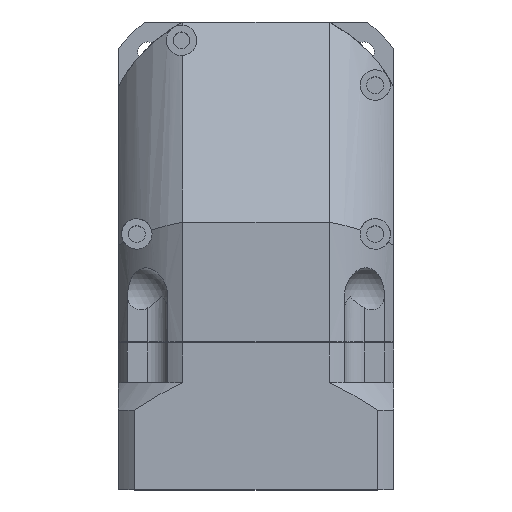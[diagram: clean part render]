
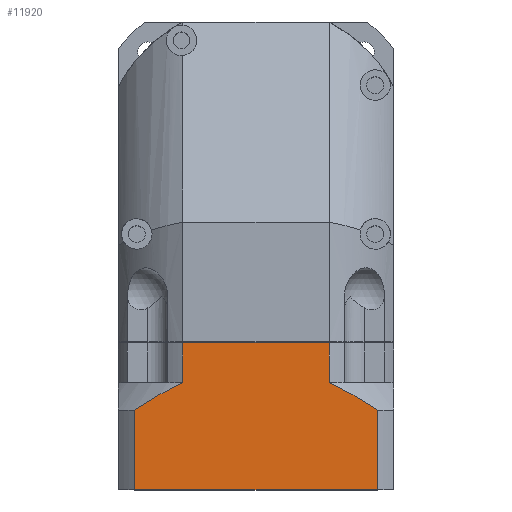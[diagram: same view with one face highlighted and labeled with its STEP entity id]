
A CAD part, top view. The second image highlights one B-rep face of the part: STEP entity #11920.
In plain terms, the highlighted planar face has unit normal (0, 0, 1) as drawn and (0, 0, -1) by its records, which use the part's own axes.
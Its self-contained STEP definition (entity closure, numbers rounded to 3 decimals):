
#10580=DIRECTION('',(-1.,0.,0.));
#10581=VECTOR('',#10580,79.373);
#10582=CARTESIAN_POINT('',(39.686,48.,-45.));
#10583=LINE('',#10582,#10581);
#10712=DIRECTION('',(0.,1.,0.));
#10713=VECTOR('',#10712,26.);
#10714=CARTESIAN_POINT('',(-39.686,22.,-45.));
#10715=LINE('',#10714,#10713);
#10716=CARTESIAN_POINT('',(-24.,13.,-45.));
#10717=CARTESIAN_POINT('',(-25.183,13.557,-45.));
#10718=CARTESIAN_POINT('',(-27.606,14.761,-45.));
#10719=CARTESIAN_POINT('',(-31.377,16.828,-45.));
#10720=CARTESIAN_POINT('',(-35.365,19.203,-45.));
#10721=CARTESIAN_POINT('',(-38.217,21.028,-45.));
#10722=CARTESIAN_POINT('',(-39.686,22.,-45.));
#10724=DIRECTION('',(0.,1.,0.));
#10725=VECTOR('',#10724,13.);
#10726=CARTESIAN_POINT('',(24.,0.,-45.));
#10727=LINE('',#10726,#10725);
#10728=CARTESIAN_POINT('',(39.686,22.,-45.));
#10729=CARTESIAN_POINT('',(38.211,21.024,-45.));
#10730=CARTESIAN_POINT('',(35.348,19.192,-45.));
#10731=CARTESIAN_POINT('',(31.35,16.813,-45.));
#10732=CARTESIAN_POINT('',(27.582,14.749,-45.));
#10733=CARTESIAN_POINT('',(25.174,13.552,-45.));
#10734=CARTESIAN_POINT('',(24.,13.,-45.));
#10736=DIRECTION('',(0.,1.,0.));
#10737=VECTOR('',#10736,26.);
#10738=CARTESIAN_POINT('',(39.686,22.,-45.));
#10739=LINE('',#10738,#10737);
#10918=DIRECTION('',(-1.,0.,0.));
#10919=VECTOR('',#10918,48.);
#10920=CARTESIAN_POINT('',(24.,0.,-45.));
#10921=LINE('',#10920,#10919);
#10932=DIRECTION('',(0.,1.,0.));
#10933=VECTOR('',#10932,13.);
#10934=CARTESIAN_POINT('',(-24.,0.,-45.));
#10935=LINE('',#10934,#10933);
#11384=CARTESIAN_POINT('',(-24.,0.,-45.));
#11386=VERTEX_POINT('',#11384);
#11430=CARTESIAN_POINT('',(24.,0.,-45.));
#11431=VERTEX_POINT('',#11430);
#11472=CARTESIAN_POINT('',(-24.,13.,-45.));
#11473=VERTEX_POINT('',#11472);
#11486=CARTESIAN_POINT('',(24.,13.,-45.));
#11487=VERTEX_POINT('',#11486);
#11489=CARTESIAN_POINT('',(39.686,48.,-45.));
#11491=VERTEX_POINT('',#11489);
#11492=CARTESIAN_POINT('',(-39.686,48.,-45.));
#11494=VERTEX_POINT('',#11492);
#11505=CARTESIAN_POINT('',(39.686,22.,-45.));
#11507=VERTEX_POINT('',#11505);
#11508=CARTESIAN_POINT('',(-39.686,22.,-45.));
#11510=VERTEX_POINT('',#11508);
#11900=CARTESIAN_POINT('',(24.,0.,-45.));
#11901=DIRECTION('',(0.,0.,-1.));
#11902=DIRECTION('',(-1.,0.,0.));
#11903=AXIS2_PLACEMENT_3D('',#11900,#11901,#11902);
#11904=PLANE('',#11903);
#11905=ORIENTED_EDGE('',*,*,#11653,.T.);
#11906=ORIENTED_EDGE('',*,*,#11894,.F.);
#11908=ORIENTED_EDGE('',*,*,#11907,.F.);
#11910=ORIENTED_EDGE('',*,*,#11909,.F.);
#11912=ORIENTED_EDGE('',*,*,#11911,.F.);
#11914=ORIENTED_EDGE('',*,*,#11913,.T.);
#11916=ORIENTED_EDGE('',*,*,#11915,.F.);
#11917=ORIENTED_EDGE('',*,*,#11875,.T.);
#11918=EDGE_LOOP('',(#11905,#11906,#11908,#11910,#11912,#11914,#11916,#11917));
#11919=FACE_OUTER_BOUND('',#11918,.F.);
#11920=ADVANCED_FACE('',(#11919),#11904,.T.);
#10723=B_SPLINE_CURVE_WITH_KNOTS('',3,(#10716,#10717,#10718,#10719,#10720,
#10721,#10722),.UNSPECIFIED.,.F.,.F.,(4,1,1,1,4),(0.,0.25,0.5,0.75,
1.),.UNSPECIFIED.);
#10735=B_SPLINE_CURVE_WITH_KNOTS('',3,(#10728,#10729,#10730,#10731,#10732,
#10733,#10734),.UNSPECIFIED.,.F.,.F.,(4,1,1,1,4),(0.,0.25,0.5,0.75,
1.),.UNSPECIFIED.);
#11653=EDGE_CURVE('',#11491,#11494,#10583,.T.);
#11875=EDGE_CURVE('',#11507,#11491,#10739,.T.);
#11894=EDGE_CURVE('',#11510,#11494,#10715,.T.);
#11907=EDGE_CURVE('',#11473,#11510,#10723,.T.);
#11909=EDGE_CURVE('',#11386,#11473,#10935,.T.);
#11911=EDGE_CURVE('',#11431,#11386,#10921,.T.);
#11913=EDGE_CURVE('',#11431,#11487,#10727,.T.);
#11915=EDGE_CURVE('',#11507,#11487,#10735,.T.);
